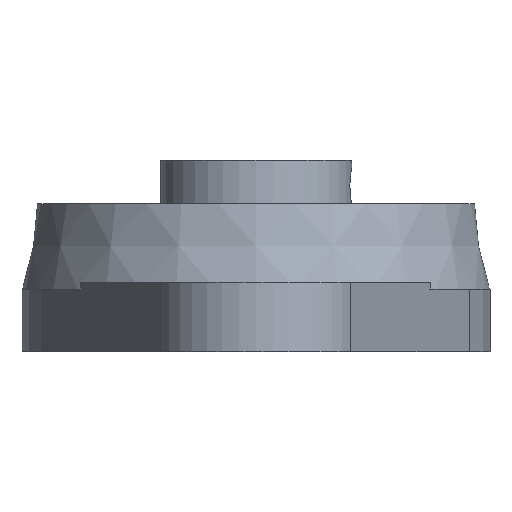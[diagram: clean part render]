
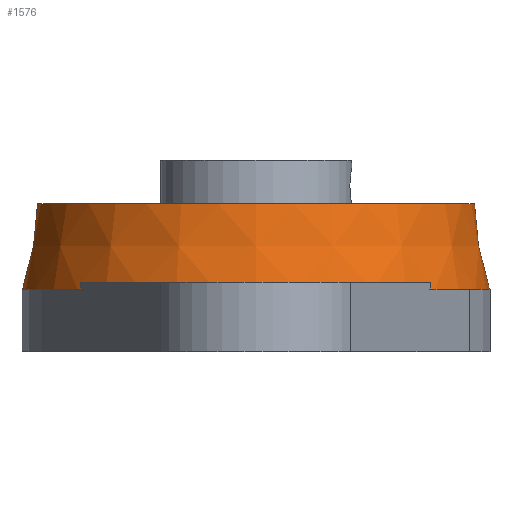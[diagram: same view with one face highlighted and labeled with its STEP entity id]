
A CAD part, left-side view. The second image highlights one B-rep face of the part: STEP entity #1576.
In plain terms, the highlighted conical face has half-angle 10 degrees and reference radius 13.425 mm.
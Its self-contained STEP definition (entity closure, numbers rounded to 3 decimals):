
#1561 = PLANE('',#1562);
#1562 = AXIS2_PLACEMENT_3D('',#1563,#1564,#1565);
#1563 = CARTESIAN_POINT('',(0.,0.,8.5));
#1564 = DIRECTION('',(0.,0.,1.));
#1565 = DIRECTION('',(-1.,0.,0.));
#1576 = ADVANCED_FACE('',(#1577),#1590,.T.);
#1577 = FACE_BOUND('',#1578,.T.);
#1578 = EDGE_LOOP('',(#1579,#1612,#1635,#1666));
#1579 = ORIENTED_EDGE('',*,*,#1580,.T.);
#1580 = EDGE_CURVE('',#1581,#1581,#1583,.T.);
#1581 = VERTEX_POINT('',#1582);
#1582 = CARTESIAN_POINT('',(12.561,0.,8.5));
#1583 = SURFACE_CURVE('',#1584,(#1589,#1601),.PCURVE_S1.);
#1584 = CIRCLE('',#1585,12.561);
#1585 = AXIS2_PLACEMENT_3D('',#1586,#1587,#1588);
#1586 = CARTESIAN_POINT('',(0.,0.,8.5));
#1587 = DIRECTION('',(0.,0.,-1.));
#1588 = DIRECTION('',(-1.,0.,0.));
#1589 = PCURVE('',#1590,#1595);
#1590 = CONICAL_SURFACE('',#1591,13.425,0.175);
#1591 = AXIS2_PLACEMENT_3D('',#1592,#1593,#1594);
#1592 = CARTESIAN_POINT('',(0.,0.,3.6));
#1593 = DIRECTION('',(0.,0.,-1.));
#1594 = DIRECTION('',(-1.,0.,0.));
#1595 = DEFINITIONAL_REPRESENTATION('',(#1596),#1600);
#1596 = LINE('',#1597,#1598);
#1597 = CARTESIAN_POINT('',(-6.283,-4.9));
#1598 = VECTOR('',#1599,1.);
#1599 = DIRECTION('',(1.,0.));
#1600 = ( GEOMETRIC_REPRESENTATION_CONTEXT(2) 
PARAMETRIC_REPRESENTATION_CONTEXT() REPRESENTATION_CONTEXT('2D SPACE',''
  ) );
#1601 = PCURVE('',#1561,#1602);
#1602 = DEFINITIONAL_REPRESENTATION('',(#1603),#1611);
#1603 = ( BOUNDED_CURVE() B_SPLINE_CURVE(2,(#1604,#1605,#1606,#1607,
#1608,#1609,#1610),.UNSPECIFIED.,.T.,.F.) B_SPLINE_CURVE_WITH_KNOTS((1,2
    ,2,2,2,1),(-2.094,0.,2.094,4.189,
6.283,8.378),.UNSPECIFIED.) CURVE() 
GEOMETRIC_REPRESENTATION_ITEM() RATIONAL_B_SPLINE_CURVE((1.,0.5,1.,0.5,
1.,0.5,1.)) REPRESENTATION_ITEM('') );
#1604 = CARTESIAN_POINT('',(12.561,0.));
#1605 = CARTESIAN_POINT('',(12.561,-21.756));
#1606 = CARTESIAN_POINT('',(-6.28,-10.878));
#1607 = CARTESIAN_POINT('',(-25.122,0.));
#1608 = CARTESIAN_POINT('',(-6.28,10.878));
#1609 = CARTESIAN_POINT('',(12.561,21.756));
#1610 = CARTESIAN_POINT('',(12.561,0.));
#1611 = ( GEOMETRIC_REPRESENTATION_CONTEXT(2) 
PARAMETRIC_REPRESENTATION_CONTEXT() REPRESENTATION_CONTEXT('2D SPACE',''
  ) );
#1612 = ORIENTED_EDGE('',*,*,#1613,.T.);
#1613 = EDGE_CURVE('',#1581,#1614,#1616,.T.);
#1614 = VERTEX_POINT('',#1615);
#1615 = CARTESIAN_POINT('',(13.425,0.,3.6));
#1616 = SEAM_CURVE('',#1617,(#1621,#1628),.PCURVE_S1.);
#1617 = LINE('',#1618,#1619);
#1618 = CARTESIAN_POINT('',(13.425,0.,3.6));
#1619 = VECTOR('',#1620,1.);
#1620 = DIRECTION('',(0.174,0.,-0.985)
  );
#1621 = PCURVE('',#1590,#1622);
#1622 = DEFINITIONAL_REPRESENTATION('',(#1623),#1627);
#1623 = LINE('',#1624,#1625);
#1624 = CARTESIAN_POINT('',(3.142,0.));
#1625 = VECTOR('',#1626,1.);
#1626 = DIRECTION('',(0.,1.));
#1627 = ( GEOMETRIC_REPRESENTATION_CONTEXT(2) 
PARAMETRIC_REPRESENTATION_CONTEXT() REPRESENTATION_CONTEXT('2D SPACE',''
  ) );
#1628 = PCURVE('',#1590,#1629);
#1629 = DEFINITIONAL_REPRESENTATION('',(#1630),#1634);
#1630 = LINE('',#1631,#1632);
#1631 = CARTESIAN_POINT('',(-3.142,0.));
#1632 = VECTOR('',#1633,1.);
#1633 = DIRECTION('',(0.,1.));
#1634 = ( GEOMETRIC_REPRESENTATION_CONTEXT(2) 
PARAMETRIC_REPRESENTATION_CONTEXT() REPRESENTATION_CONTEXT('2D SPACE',''
  ) );
#1635 = ORIENTED_EDGE('',*,*,#1636,.F.);
#1636 = EDGE_CURVE('',#1614,#1614,#1637,.T.);
#1637 = SURFACE_CURVE('',#1638,(#1643,#1650),.PCURVE_S1.);
#1638 = CIRCLE('',#1639,13.425);
#1639 = AXIS2_PLACEMENT_3D('',#1640,#1641,#1642);
#1640 = CARTESIAN_POINT('',(0.,0.,3.6));
#1641 = DIRECTION('',(0.,0.,-1.));
#1642 = DIRECTION('',(-1.,0.,0.));
#1643 = PCURVE('',#1590,#1644);
#1644 = DEFINITIONAL_REPRESENTATION('',(#1645),#1649);
#1645 = LINE('',#1646,#1647);
#1646 = CARTESIAN_POINT('',(-6.283,0.));
#1647 = VECTOR('',#1648,1.);
#1648 = DIRECTION('',(1.,0.));
#1649 = ( GEOMETRIC_REPRESENTATION_CONTEXT(2) 
PARAMETRIC_REPRESENTATION_CONTEXT() REPRESENTATION_CONTEXT('2D SPACE',''
  ) );
#1650 = PCURVE('',#1651,#1656);
#1651 = PLANE('',#1652);
#1652 = AXIS2_PLACEMENT_3D('',#1653,#1654,#1655);
#1653 = CARTESIAN_POINT('',(0.,0.,3.6)
  );
#1654 = DIRECTION('',(0.,0.,1.));
#1655 = DIRECTION('',(1.,0.,-0.));
#1656 = DEFINITIONAL_REPRESENTATION('',(#1657),#1665);
#1657 = ( BOUNDED_CURVE() B_SPLINE_CURVE(2,(#1658,#1659,#1660,#1661,
#1662,#1663,#1664),.UNSPECIFIED.,.T.,.F.) B_SPLINE_CURVE_WITH_KNOTS((1,2
    ,2,2,2,1),(-2.094,0.,2.094,4.189,
6.283,8.378),.UNSPECIFIED.) CURVE() 
GEOMETRIC_REPRESENTATION_ITEM() RATIONAL_B_SPLINE_CURVE((1.,0.5,1.,0.5,
1.,0.5,1.)) REPRESENTATION_ITEM('') );
#1658 = CARTESIAN_POINT('',(-13.425,0.));
#1659 = CARTESIAN_POINT('',(-13.425,23.253));
#1660 = CARTESIAN_POINT('',(6.712,11.626));
#1661 = CARTESIAN_POINT('',(26.85,0.));
#1662 = CARTESIAN_POINT('',(6.712,-11.626));
#1663 = CARTESIAN_POINT('',(-13.425,-23.253));
#1664 = CARTESIAN_POINT('',(-13.425,0.));
#1665 = ( GEOMETRIC_REPRESENTATION_CONTEXT(2) 
PARAMETRIC_REPRESENTATION_CONTEXT() REPRESENTATION_CONTEXT('2D SPACE',''
  ) );
#1666 = ORIENTED_EDGE('',*,*,#1613,.F.);
